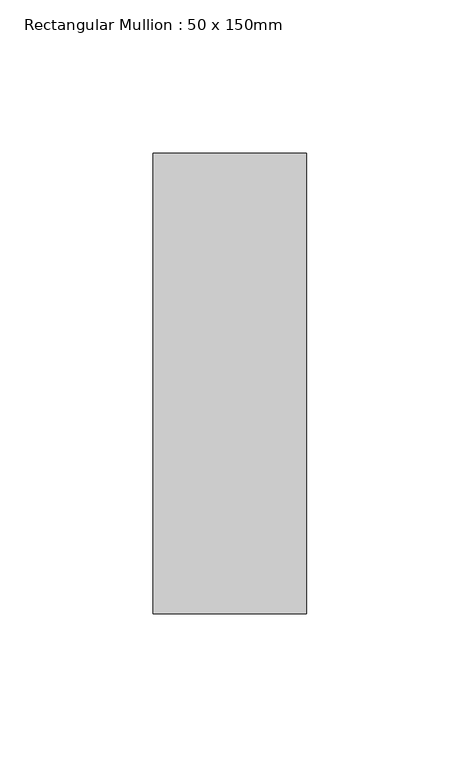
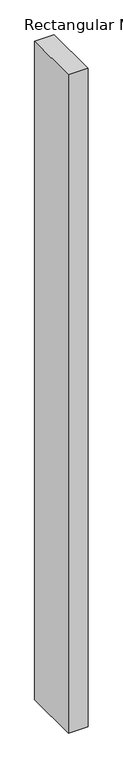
"""IFC4 building model written with IfcOpenShell, lengths in millimetres: member geometry, Rectangular Mullion : 50 x 150mm."""

from ifc_helpers import new_model, si_unit, frame, origin, place, context, project, spatial, polyline, outline, extrude, source, transform, mapped, element, save


def rectangular_mullion_50_x_150mm_1f1917b7(model_context):
    return source(origin(), model_context, "Body", "SweptSolid", [
        extrude(outline(polyline([(0.0, 0.0), (0.1073531, -50.0), (-1785.8261813, -50.0), (-1785.7285321, 0.0), (0.0, 0.0)])), frame((0.0, -75.0, 0.0), z_axis=(0.0, 1.0, 0.0), x_axis=(0.0, 0.0, 1.0)), (0.0, 0.0, 1.0), 150.0),
    ])


if __name__ == "__main__":
    model = new_model("IFC4")
    model_context = context("Model", 3, world=origin())
    ifc_project = project(units=[si_unit("LENGTHUNIT", "METRE", prefix="MILLI")], contexts=[model_context])
    site = spatial("IfcSite", under=ifc_project)
    building = spatial("IfcBuilding", under=site)
    placement = place(None, origin())
    rectangular_mullion_50_x_150mm_shape = rectangular_mullion_50_x_150mm_1f1917b7(model_context)
    element("IfcMember", 1, ObjectType="Rectangular Mullion : 50 x 150mm", at=placement, inside=building, context=model_context, shape_type="MappedRepresentation", body=[
        mapped(rectangular_mullion_50_x_150mm_shape, transform((0.0, 0.0, 0.0), x_axis=(1.0, 0.0, 0.0), y_axis=(0.0, 1.0, 0.0), z_axis=(0.0, 0.0, 1.0))),
    ])
    save(model, "model.ifc")
